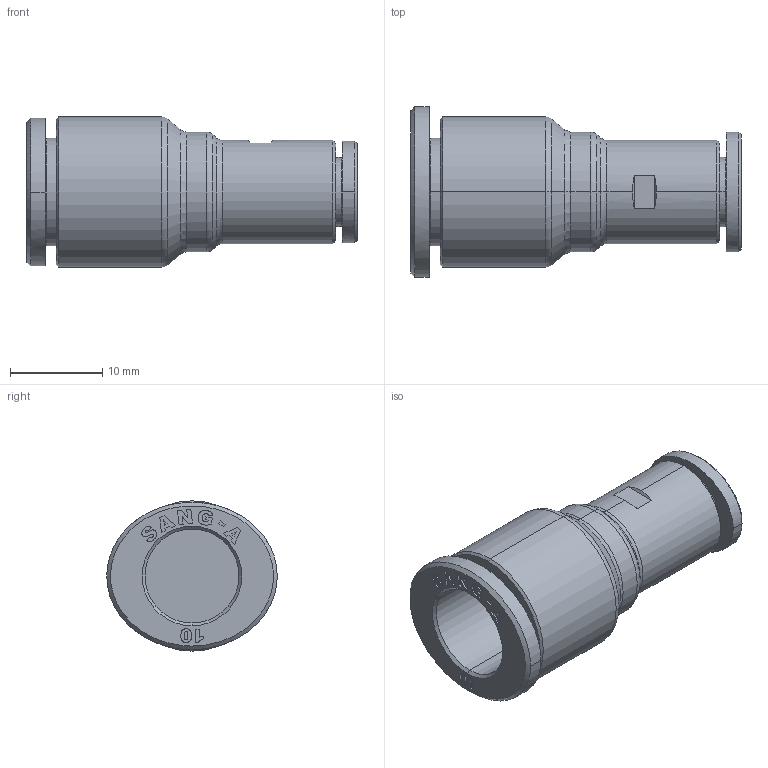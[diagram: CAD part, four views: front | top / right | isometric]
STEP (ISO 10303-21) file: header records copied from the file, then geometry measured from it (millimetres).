
FILE_DESCRIPTION((''),'2;1');
FILE_NAME('GPG_1006(3D).stp','2012-12-20T14:38:13',(''),(''),'Mechanical Desktop.R8.0.24.0','Mechanical Desktop.R8.0.24.0',', , ');
FILE_SCHEMA(('CONFIG_CONTROL_DESIGN'));
Length unit declared in the file: millimetre
Products named in the file (2): GPG_1006(3D); 睡ヶ1
Assembly tree (1 placements, depth 2):
  GPG_1006(3D)
    睡ヶ1
Bounding box: 35.85 x 18.5 x 16.3 mm (x, y, z)
Volume: 3282.1 mm3; surface area: 3153.2 mm2
Topology: 1 solids, 1 shells, 637 faces, 1797 edges, 1189 vertices
Faces by surface type: plane 551, bspline 42, cylinder 26, cone 14, torus 4
Entity records: 21672 total; most frequent: CARTESIAN_POINT 5142, ORIENTED_EDGE 3594, DIRECTION 3105, EDGE_CURVE 1797, VECTOR 1637, LINE 1637, VERTEX_POINT 1189, AXIS2_PLACEMENT_3D 734
